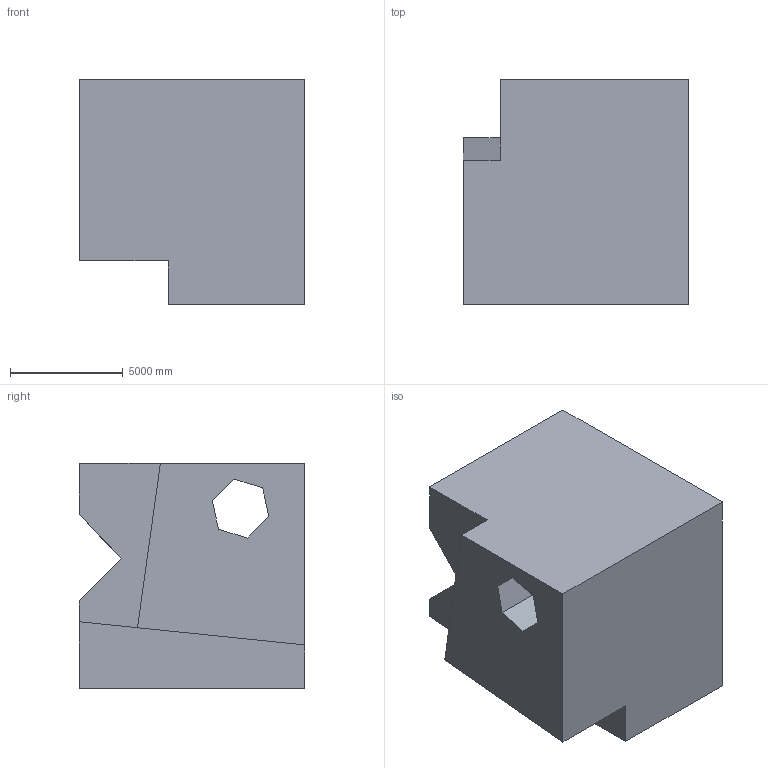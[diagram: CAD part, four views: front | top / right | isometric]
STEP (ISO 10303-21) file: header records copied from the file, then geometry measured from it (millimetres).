
FILE_DESCRIPTION (( 'STEP AP203' ), '1' );
FILE_NAME ('433.STEP', '2022-07-29T11:15:44', ( 'user' ), ( '' ), 'SwSTEP 2.0', 'SolidWorks 2021', '' );
FILE_SCHEMA (( 'CONFIG_CONTROL_DESIGN' ));
Length unit declared in the file: centimetre
Products named in the file (1): 433
Bounding box: 10000 x 10000 x 10000 mm (x, y, z)
Volume: 784639355170.4 mm3; surface area: 659056063.2 mm2
Topology: 1 solids, 1 shells, 26 faces, 69 edges, 46 vertices
Faces by surface type: plane 22, cylinder 4
Entity records: 878 total; most frequent: CARTESIAN_POINT 166, ORIENTED_EDGE 138, DIRECTION 119, EDGE_CURVE 69, LINE 57, VECTOR 57, VERTEX_POINT 46, AXIS2_PLACEMENT_3D 31
